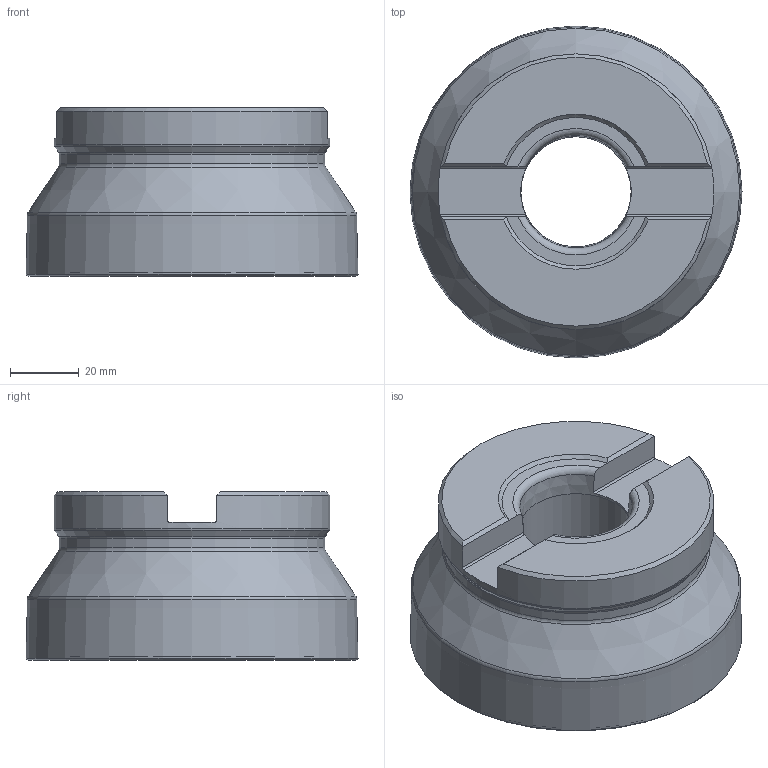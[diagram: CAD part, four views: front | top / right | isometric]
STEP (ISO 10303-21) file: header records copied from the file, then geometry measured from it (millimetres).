
FILE_DESCRIPTION(/* description */ (''),/* implementation_level */ '2;1');
FILE_NAME(/* name */ '637720840197701598.stp',/* time_stamp */ '2021-11-09T19:47:12+08:00',/* author */ (''),/* organization */ (''),/* preprocessor_version */ 'ST-DEVELOPER v16.7',/* originating_system */ 'SIEMENS PLM Software NX 12.0',/* authorisation */ '');
FILE_SCHEMA (('AUTOMOTIVE_DESIGN { 1 0 10303 214 3 1 1 1 }'));
Length unit declared in the file: millimetre
Products named in the file (2): 637720840147224493_LNKT160708PNR-GL; 637720840131017634_EMP09-100-B32-LN16-08_S
Assembly tree (8 placements, depth 2):
  637720840131017634_EMP09-100-B32-LN16-08_S
    637720840147224493_LNKT160708PNR-GL  x8
Bounding box: 96.33 x 96.33 x 48.83 mm (x, y, z)
Volume: 260658.6 mm3; surface area: 42467.2 mm2
Topology: 2 solids, 2 shells, 53 faces, 129 edges, 79 vertices
Faces by surface type: plane 17, cone 11, torus 10, cylinder 9, revolution 6
Full cylindrical faces by diameter (mm): 32 x1, 45 x1, 77 x1, 80 x1, 95.616 x1
Entity records: 1702 total; most frequent: CARTESIAN_POINT 523, DIRECTION 226, ORIENTED_EDGE 182, AXIS2_PLACEMENT_3D 98, EDGE_CURVE 91, EDGE_LOOP 80, VERTEX_POINT 67, FACE_BOUND 56
